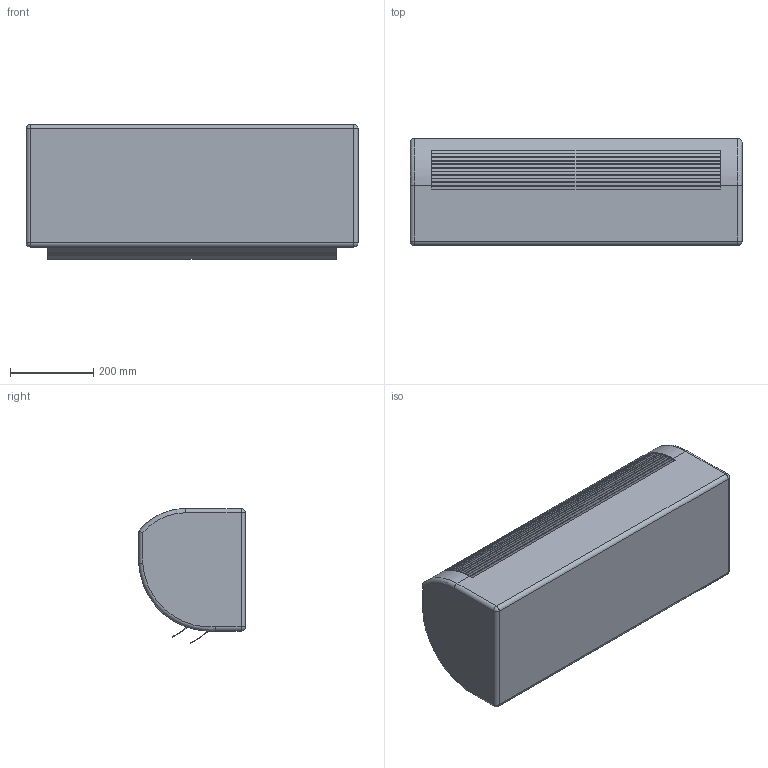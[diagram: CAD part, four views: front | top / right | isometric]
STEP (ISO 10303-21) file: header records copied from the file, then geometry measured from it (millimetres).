
FILE_DESCRIPTION(('FreeCAD Model'),'2;1');
FILE_NAME('Open CASCADE Shape Model','2026-04-06T09:44:37',(''),(''), 'Open CASCADE STEP processor 7.8','FreeCAD','Unknown');
FILE_SCHEMA(('AUTOMOTIVE_DESIGN { 1 0 10303 214 1 1 1 1 }'));
Length unit declared in the file: millimetre
Products named in the file (1): Evap Pared
Bounding box: 800 x 257 x 324.65 mm (x, y, z)
Volume: 49020319.6 mm3; surface area: 1499976.2 mm2
Topology: 7 solids, 7 shells, 129 faces, 319 edges, 198 vertices
Faces by surface type: plane 89, cylinder 32, sphere 4, torus 4
Entity records: 3869 total; most frequent: CARTESIAN_POINT 711, DIRECTION 679, ORIENTED_EDGE 632, EDGE_CURVE 315, AXIS2_PLACEMENT_3D 236, LINE 207, VECTOR 207, VERTEX_POINT 198
